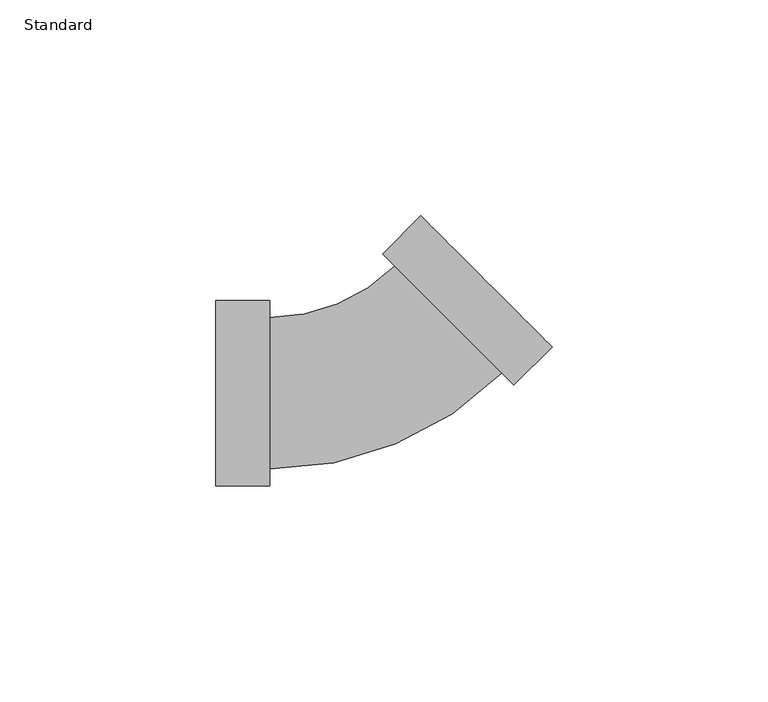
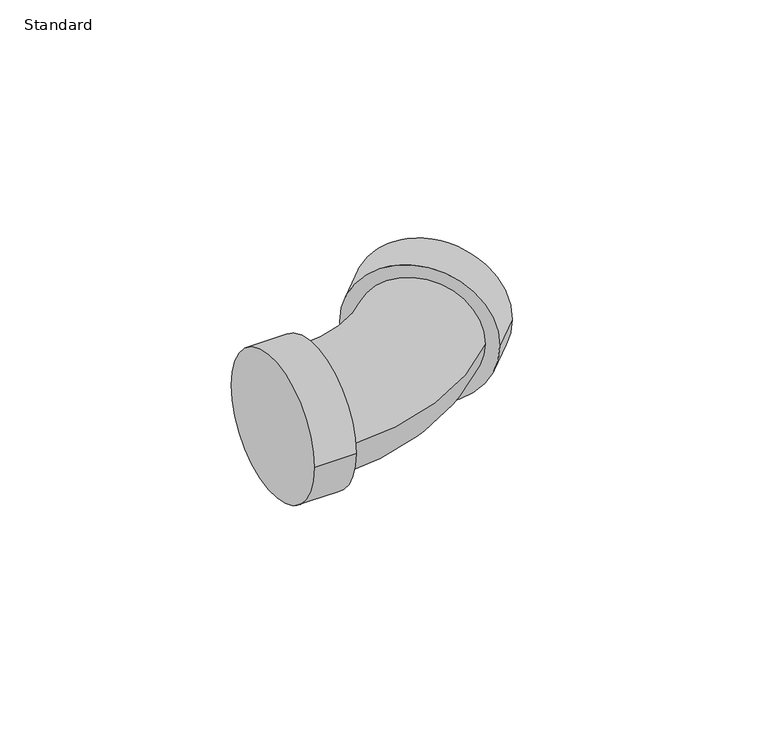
"""IFC4 building model written with IfcOpenShell, lengths in millimetres: pipe fitting geometry, Elbow_45_90-Lubrizol-CPVC-FlowGuard_MX : Standard."""

from ifc_helpers import new_model, si_unit, point, frame, origin, place, context, project, spatial, circle_curve, ellipse_curve, trimmed, source, transform, mapped, element, save
from ifc_brep_helpers import plane_surface, cylinder_surface, revolved_surface, advanced_brep


def standard_42fb5c6e(model_context):
    return source(origin(), model_context, "Body", "AdvancedBrep", [
        advanced_brep(
        [(-36.6921875, -21.4871094, 0.0), (-36.6921875, 21.4871094, 0.0), (-24.1921875, -21.4871094, 0.0), (-24.1921875, 21.4871094, 0.0), (-24.1921875, -17.5640625, 0.0), (-24.1921875, 17.5640625, 0.0), (4.6867921, 29.5261275, 0.0), (29.5261275, 4.6867921, 0.0), (32.3001406, 1.9127791, 0.0), (1.9127791, 32.3001406, 0.0), (41.1389753, 10.7516139, 0.0), (10.7516139, 41.1389753, 0.0)],
        [
            (0, 1, circle_curve(frame((-36.6921875, 0.0, 0.0), z_axis=(-1.0, 0.0, 0.0), x_axis=(0.0, 1.0, 0.0)), 21.4871094)),
            (1, 0, circle_curve(frame((-36.6921875, 0.0, 0.0), z_axis=(-1.0, 0.0, 0.0), x_axis=(0.0, 1.0, 0.0)), 21.4871094)),
            (2, 3, circle_curve(frame((-24.1921875, 0.0, 0.0), z_axis=(1.0, 0.0, 0.0), x_axis=(0.0, 1.0, 0.0)), 21.4871094)),
            (3, 2, circle_curve(frame((-24.1921875, 0.0, 0.0), z_axis=(1.0, 0.0, 0.0), x_axis=(0.0, 1.0, 0.0)), 21.4871094)),
            (4, 5, circle_curve(frame((-24.1921875, 0.0, 0.0), z_axis=(-1.0, 0.0, 0.0), x_axis=(0.0, 1.0, 0.0)), 17.5640625)),
            (5, 4, circle_curve(frame((-24.1921875, 0.0, 0.0), z_axis=(-1.0, 0.0, 0.0), x_axis=(0.0, 1.0, 0.0)), 17.5640625)),
            (0, 2),
            (3, 1),
            (6, 5, circle_curve(frame((-24.1921875, 58.4051072, 0.0), z_axis=(0.0, 0.0, -1.0), x_axis=(0.0, -1.0, 0.0)), 40.8410447)),
            (4, 7, circle_curve(frame((-24.1921875, 58.4051072, 0.0), z_axis=(0.0, 0.0, 1.0), x_axis=(0.0, -1.0, 0.0)), 75.9691697)),
            (7, 6, circle_curve(frame((17.1064598, 17.1064598, 0.0), z_axis=(-0.7071067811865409, -0.7071067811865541, 0.0), x_axis=(-0.7071067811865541, 0.7071067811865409, 0.0)), 17.5640625)),
            (6, 7, circle_curve(frame((17.1064598, 17.1064598, 0.0), z_axis=(-0.7071067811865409, -0.7071067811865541, 0.0), x_axis=(-0.7071067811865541, 0.7071067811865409, 0.0)), 17.5640625)),
            (8, 9, circle_curve(frame((17.1064598, 17.1064598, 0.0), z_axis=(-0.7071067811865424, -0.7071067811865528, 0.0), x_axis=(-0.7071067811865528, 0.7071067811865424, 0.0)), 21.4871094)),
            (9, 8, circle_curve(frame((17.1064598, 17.1064598, 0.0), z_axis=(-0.7071067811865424, -0.7071067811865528, 0.0), x_axis=(-0.7071067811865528, 0.7071067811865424, 0.0)), 21.4871094)),
            (10, 11, circle_curve(frame((25.9452946, 25.9452946, 0.0), z_axis=(0.7071067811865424, 0.7071067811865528, 0.0), x_axis=(-0.7071067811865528, 0.7071067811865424, 0.0)), 21.4871094)),
            (11, 10, circle_curve(frame((25.9452946, 25.9452946, 0.0), z_axis=(0.7071067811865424, 0.7071067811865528, 0.0), x_axis=(-0.7071067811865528, 0.7071067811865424, 0.0)), 21.4871094)),
            (8, 10),
            (11, 9),
        ],
        [
            plane_surface(frame((-36.6921875, 0.0, 0.0), z_axis=(-1.0, 0.0, 0.0), x_axis=(0.0, 0.0, 1.0))),
            plane_surface(frame((-24.1921875, 0.0, 0.0), z_axis=(1.0, 0.0, 0.0), x_axis=(0.0, 0.0, 1.0))),
            cylinder_surface(frame((-36.6921875, 0.0, 0.0), z_axis=(-1.0, 0.0, 0.0), x_axis=(0.0, 1.0, 0.0)), 21.4871094),
            revolved_surface(trimmed(ellipse_curve(frame((-24.1921875, 0.0, 0.0), z_axis=(-1.0, 0.0, 0.0), x_axis=(0.0, 1.0, 0.0)), 17.5640625, 17.5640625), [point((-24.1921875, -17.5640625, 0.0))], [point((-24.1921875, 17.5640625, 0.0))], True, "CARTESIAN"), (-24.1921875, 58.4051072, 0.0), (0.0, 0.0, 1.0)),
            revolved_surface(trimmed(ellipse_curve(frame((-24.1921875, 0.0, 0.0), z_axis=(-1.0, 0.0, 0.0), x_axis=(0.0, 1.0, 0.0)), 17.5640625, 17.5640625), [point((-24.1921875, 17.5640625, 0.0))], [point((-24.1921875, -17.5640625, 0.0))], True, "CARTESIAN"), (-24.1921875, 58.4051072, 0.0), (0.0, 0.0, 1.0)),
            plane_surface(frame((17.1064598, 17.1064598, 0.0), z_axis=(-0.7071067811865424, -0.7071067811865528, 0.0), x_axis=(0.0, 0.0, 1.0))),
            plane_surface(frame((25.9452946, 25.9452946, 0.0), z_axis=(0.7071067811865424, 0.7071067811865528, 0.0), x_axis=(0.0, 0.0, 1.0))),
            cylinder_surface(frame((17.1064598, 17.1064598, 0.0), z_axis=(-0.7071067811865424, -0.7071067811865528, 0.0), x_axis=(-0.7071067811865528, 0.7071067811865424, 0.0)), 21.4871094),
        ],
        [
            (0, [[1, 2]]),
            (1, [[3, 4], [5, 6]]),
            (2, [[-1, 7, -4, 8]]),
            (2, [[-2, -8, -3, -7]]),
            (3, [[9, -5, 10, 11]]),
            (4, [[-9, 12, -10, -6]]),
            (5, [[13, 14], [-11, -12]]),
            (6, [[15, 16]]),
            (7, [[-13, 17, -16, 18]]),
            (7, [[-14, -18, -15, -17]]),
        ],
    ),
    ])


if __name__ == "__main__":
    model = new_model("IFC4")
    model_context = context("Model", 3, world=origin())
    ifc_project = project(units=[si_unit("LENGTHUNIT", "METRE", prefix="MILLI")], contexts=[model_context])
    site = spatial("IfcSite", under=ifc_project)
    building = spatial("IfcBuilding", under=site)
    placement = place(None, origin())
    standard_shape = standard_42fb5c6e(model_context)
    element("IfcPipeFitting", 1, ObjectType="Elbow_45_90-Lubrizol-CPVC-FlowGuard_MX : Standard", at=placement, inside=building, context=model_context, shape_type="MappedRepresentation", body=[
        mapped(standard_shape, transform((0.0, 0.0, 0.0), x_axis=(1.0, 0.0, 0.0), y_axis=(0.0, 1.0, 0.0), z_axis=(0.0, 0.0, 1.0))),
    ])
    save(model, "model.ifc")
